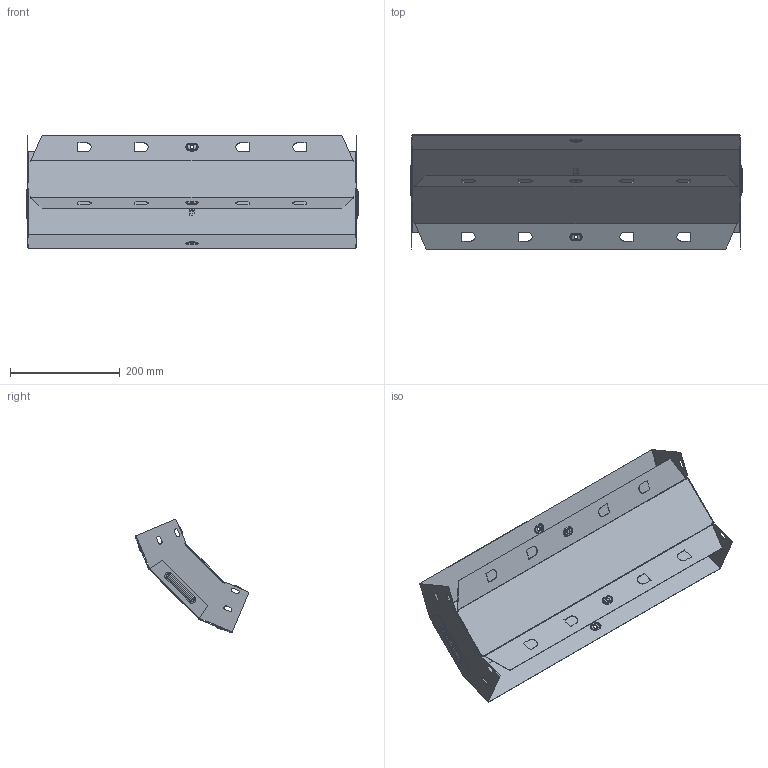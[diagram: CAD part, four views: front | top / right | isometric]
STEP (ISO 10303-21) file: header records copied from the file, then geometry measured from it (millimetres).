
FILE_DESCRIPTION (( 'STEP AP214' ), '1' );
FILE_NAME ('vo4580600_捘.STEP', '2019-06-10T08:17:50', ( '砐錪賧瘔蠈錪 Windows' ), ( '' ), 'SwSTEP 2.0', 'SolidWorks 2018', '' );
FILE_SCHEMA (( 'AUTOMOTIVE_DESIGN' ));
Length unit declared in the file: millimetre
Products named in the file (1): vo4580600_捘
Bounding box: 605.6 x 207.86 x 207.86 mm (x, y, z)
Volume: 247418.4 mm3; surface area: 622706.8 mm2
Topology: 2 solids, 2 shells, 404 faces, 1014 edges, 636 vertices
Faces by surface type: plane 197, cylinder 126, torus 64, bspline 17
Entity records: 12718 total; most frequent: CARTESIAN_POINT 2811, DIRECTION 2072, ORIENTED_EDGE 2028, EDGE_CURVE 1014, AXIS2_PLACEMENT_3D 720, VERTEX_POINT 636, LINE 632, VECTOR 632
